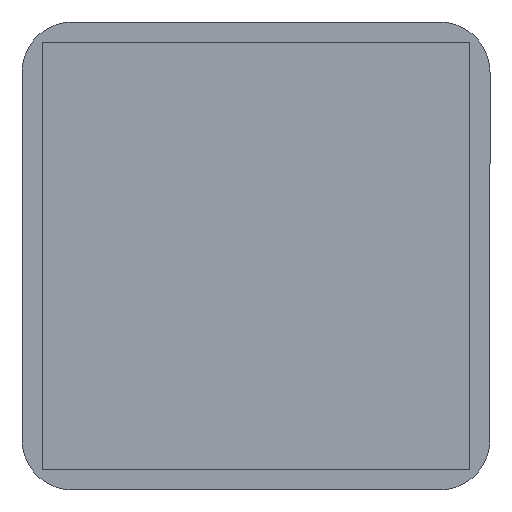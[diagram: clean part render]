
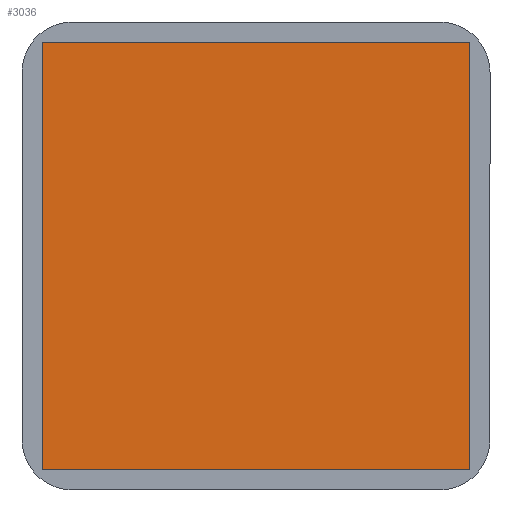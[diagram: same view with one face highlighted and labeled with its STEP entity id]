
A CAD part, front view. The second image highlights one B-rep face of the part: STEP entity #3036.
In plain terms, the highlighted planar face has unit normal (0, -1, 0).
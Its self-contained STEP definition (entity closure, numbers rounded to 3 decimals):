
#35 = CARTESIAN_POINT ( 'NONE',  ( -8.5, -0.127, -8.5 ) ) ;
#88 = DIRECTION ( 'NONE',  ( -1., 0., 0. ) ) ;
#258 = DIRECTION ( 'NONE',  ( 1., 0., 0. ) ) ;
#267 = VERTEX_POINT ( 'NONE', #1915 ) ;
#343 = VECTOR ( 'NONE', #2233, 1000. ) ;
#407 = CARTESIAN_POINT ( 'NONE',  ( -8.5, -0.127, 8.5 ) ) ;
#427 = CARTESIAN_POINT ( 'NONE',  ( -8.5, -0.127, -8.5 ) ) ;
#464 = LINE ( 'NONE', #3619, #343 ) ;
#533 = EDGE_CURVE ( 'NONE', #267, #1921, #464, .T. ) ;
#571 = CARTESIAN_POINT ( 'NONE',  ( -8.5, -0.127, 8.5 ) ) ;
#622 = EDGE_CURVE ( 'NONE', #1921, #856, #2847, .T. ) ;
#656 = VECTOR ( 'NONE', #1969, 1000. ) ;
#739 = ORIENTED_EDGE ( 'NONE', *, *, #2332, .F. ) ;
#856 = VERTEX_POINT ( 'NONE', #427 ) ;
#1054 = LINE ( 'NONE', #2735, #2403 ) ;
#1147 = PLANE ( 'NONE',  #3653 ) ;
#1327 = VERTEX_POINT ( 'NONE', #571 ) ;
#1612 = LINE ( 'NONE', #1910, #656 ) ;
#1910 = CARTESIAN_POINT ( 'NONE',  ( -8.5, -0.127, -8.5 ) ) ;
#1915 = CARTESIAN_POINT ( 'NONE',  ( 8.5, -0.127, 8.5 ) ) ;
#1921 = VERTEX_POINT ( 'NONE', #3660 ) ;
#1969 = DIRECTION ( 'NONE',  ( 0., 0., 1. ) ) ;
#2061 = EDGE_LOOP ( 'NONE', ( #739, #2280, #2914, #2685 ) ) ;
#2197 = VECTOR ( 'NONE', #88, 1000. ) ;
#2233 = DIRECTION ( 'NONE',  ( 0., 0., -1. ) ) ;
#2280 = ORIENTED_EDGE ( 'NONE', *, *, #622, .F. ) ;
#2332 = EDGE_CURVE ( 'NONE', #856, #1327, #1612, .T. ) ;
#2403 = VECTOR ( 'NONE', #258, 1000. ) ;
#2600 = EDGE_CURVE ( 'NONE', #1327, #267, #1054, .T. ) ;
#2679 = DIRECTION ( 'NONE',  ( 0., 1., 0. ) ) ;
#2685 = ORIENTED_EDGE ( 'NONE', *, *, #2600, .F. ) ;
#2718 = DIRECTION ( 'NONE',  ( 0., 0., 1. ) ) ;
#2735 = CARTESIAN_POINT ( 'NONE',  ( -8.5, -0.127, 8.5 ) ) ;
#2834 = FACE_OUTER_BOUND ( 'NONE', #2061, .T. ) ;
#2847 = LINE ( 'NONE', #35, #2197 ) ;
#2914 = ORIENTED_EDGE ( 'NONE', *, *, #533, .F. ) ;
#3036 = ADVANCED_FACE ( 'NONE', ( #2834 ), #1147, .F. ) ;
#3619 = CARTESIAN_POINT ( 'NONE',  ( 8.5, -0.127, -8.5 ) ) ;
#3653 = AXIS2_PLACEMENT_3D ( 'NONE', #407, #2679, #2718 ) ;
#3660 = CARTESIAN_POINT ( 'NONE',  ( 8.5, -0.127, -8.5 ) ) ;
